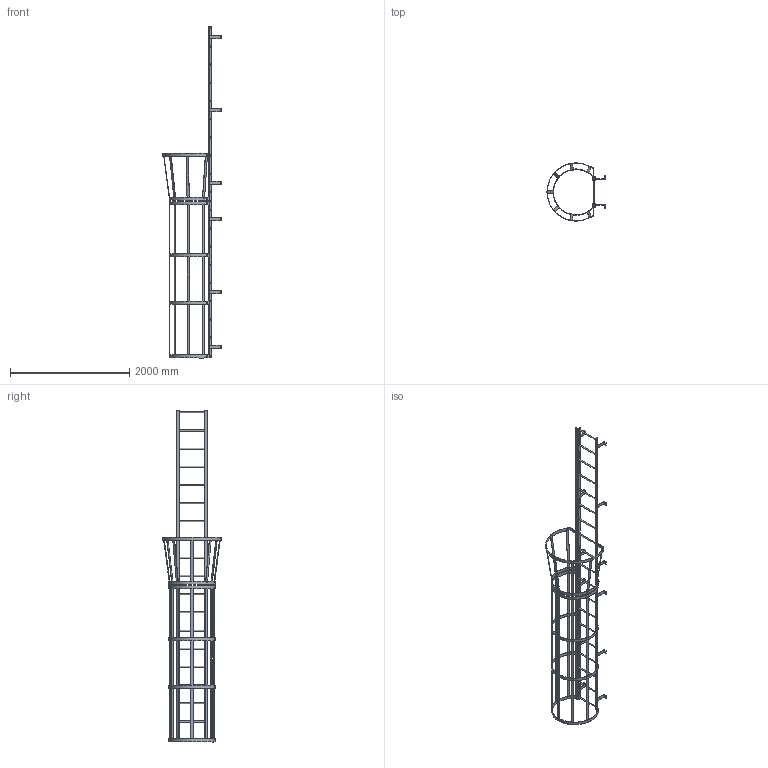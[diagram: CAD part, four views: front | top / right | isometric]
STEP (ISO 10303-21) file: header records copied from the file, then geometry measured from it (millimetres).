
FILE_DESCRIPTION(/* description */ (''),/* implementation_level */ '2;1');
FILE_NAME(/* name */ 'P:\MIKEL & KAREN\D0570195-05 F19SC SIMPLIFIED PART.stp',/* time_stamp */ '2018-07-03T08:04:57-04:00',/* author */ ('stephanie'),/* organization */ (''),/* preprocessor_version */ 'ST-DEVELOPER v16.1',/* originating_system */ 'Autodesk Inventor 2016',/* authorisation */ '');
FILE_SCHEMA (('AUTOMOTIVE_DESIGN { 1 0 10303 214 3 1 1 }'));
Length unit declared in the file: centimetre
Products named in the file (1): D0570195-05 F19SC SIMPLIFIED PART
Bounding box: 974.15 x 977.88 x 5562.6 mm (x, y, z)
Volume: 18251006.5 mm3; surface area: 6326126.1 mm2
Topology: 27 solids, 27 shells, 604 faces, 1800 edges, 1166 vertices
Faces by surface type: plane 406, cylinder 198
Full cylindrical faces by diameter (mm): 14.287 x14, 19.05 x19, 22.225 x38
Entity records: 20507 total; most frequent: ORIENTED_EDGE 3466, CARTESIAN_POINT 3396, DIRECTION 3391, EDGE_CURVE 1677, LINE 1173, VECTOR 1173, VERTEX_POINT 1114, AXIS2_PLACEMENT_3D 1109
